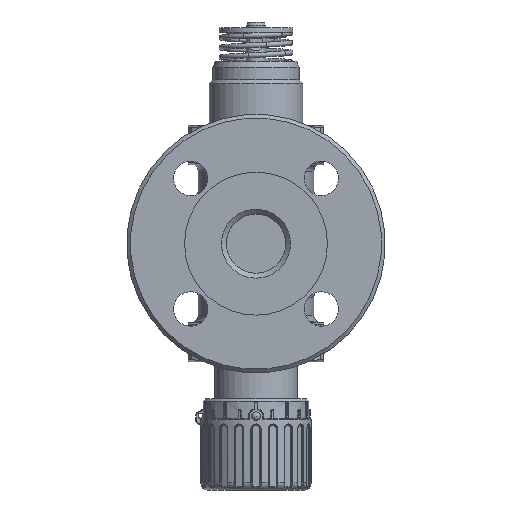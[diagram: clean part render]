
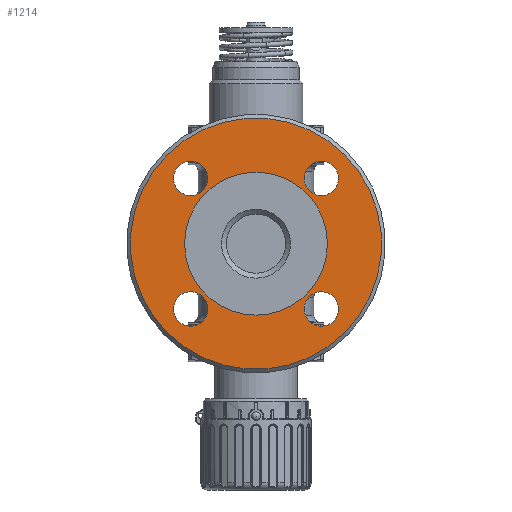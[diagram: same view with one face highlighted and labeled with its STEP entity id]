
A CAD part, left-side view. The second image highlights one B-rep face of the part: STEP entity #1214.
In plain terms, the highlighted planar face has unit normal (-1, 0, 0).
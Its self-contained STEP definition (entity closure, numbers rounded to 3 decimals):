
#321=FACE_BOUND('',#2522,.T.);
#322=FACE_BOUND('',#2523,.T.);
#323=FACE_BOUND('',#2524,.T.);
#324=FACE_BOUND('',#2525,.T.);
#325=FACE_BOUND('',#2526,.T.);
#326=FACE_BOUND('',#2527,.T.);
#1050=PLANE('',#9433);
#1214=ADVANCED_FACE('',(#321,#322,#323,#324,#325,#326),#1050,.T.);
#2522=EDGE_LOOP('',(#3827));
#2523=EDGE_LOOP('',(#3828));
#2524=EDGE_LOOP('',(#3829));
#2525=EDGE_LOOP('',(#3830));
#2526=EDGE_LOOP('',(#3831));
#2527=EDGE_LOOP('',(#3832));
#3234=CIRCLE('',#9389,29.);
#3255=CIRCLE('',#9428,51.);
#3256=CIRCLE('',#9429,7.);
#3257=CIRCLE('',#9430,7.);
#3258=CIRCLE('',#9431,7.);
#3259=CIRCLE('',#9432,7.);
#3827=ORIENTED_EDGE('',*,*,#7324,.T.);
#3828=ORIENTED_EDGE('',*,*,#7297,.T.);
#3829=ORIENTED_EDGE('',*,*,#7325,.T.);
#3830=ORIENTED_EDGE('',*,*,#7326,.T.);
#3831=ORIENTED_EDGE('',*,*,#7327,.T.);
#3832=ORIENTED_EDGE('',*,*,#7328,.T.);
#6434=VERTEX_POINT('',#12928);
#6453=VERTEX_POINT('',#12998);
#6454=VERTEX_POINT('',#13000);
#6455=VERTEX_POINT('',#13002);
#6456=VERTEX_POINT('',#13004);
#6457=VERTEX_POINT('',#13006);
#7297=EDGE_CURVE('',#6434,#6434,#3234,.T.);
#7324=EDGE_CURVE('',#6453,#6453,#3255,.T.);
#7325=EDGE_CURVE('',#6454,#6454,#3256,.T.);
#7326=EDGE_CURVE('',#6455,#6455,#3257,.T.);
#7327=EDGE_CURVE('',#6456,#6456,#3258,.T.);
#7328=EDGE_CURVE('',#6457,#6457,#3259,.T.);
#9389=AXIS2_PLACEMENT_3D('',#12927,#10442,#10443);
#9428=AXIS2_PLACEMENT_3D('',#12997,#10524,#10525);
#9429=AXIS2_PLACEMENT_3D('',#12999,#10526,#10527);
#9430=AXIS2_PLACEMENT_3D('',#13001,#10528,#10529);
#9431=AXIS2_PLACEMENT_3D('',#13003,#10530,#10531);
#9432=AXIS2_PLACEMENT_3D('',#13005,#10532,#10533);
#9433=AXIS2_PLACEMENT_3D('',#13007,#10534,#10535);
#10442=DIRECTION('',(1.,0.,0.));
#10443=DIRECTION('',(0.,0.,1.));
#10524=DIRECTION('',(-1.,0.,0.));
#10525=DIRECTION('',(0.,0.707,-0.707));
#10526=DIRECTION('',(1.,0.,0.));
#10527=DIRECTION('',(0.,0.707,0.707));
#10528=DIRECTION('',(1.,0.,0.));
#10529=DIRECTION('',(0.,0.707,-0.707));
#10530=DIRECTION('',(1.,0.,0.));
#10531=DIRECTION('',(0.,-0.707,-0.707));
#10532=DIRECTION('',(1.,0.,0.));
#10533=DIRECTION('',(0.,-0.707,0.707));
#10534=DIRECTION('',(-1.,0.,0.));
#10535=DIRECTION('',(0.,0.707,-0.707));
#12927=CARTESIAN_POINT('',(-73.,0.,0.));
#12928=CARTESIAN_POINT('',(-73.,0.,29.));
#12997=CARTESIAN_POINT('',(-73.,0.,0.));
#12998=CARTESIAN_POINT('',(-73.,36.062,-36.062));
#12999=CARTESIAN_POINT('',(-73.,26.517,-26.517));
#13000=CARTESIAN_POINT('',(-73.,31.466,-21.567));
#13001=CARTESIAN_POINT('',(-73.,-26.517,-26.517));
#13002=CARTESIAN_POINT('',(-73.,-21.567,-31.466));
#13003=CARTESIAN_POINT('',(-73.,-26.517,26.517));
#13004=CARTESIAN_POINT('',(-73.,-31.466,21.567));
#13005=CARTESIAN_POINT('',(-73.,26.517,26.517));
#13006=CARTESIAN_POINT('',(-73.,21.567,31.466));
#13007=CARTESIAN_POINT('',(-73.,0.,0.));
